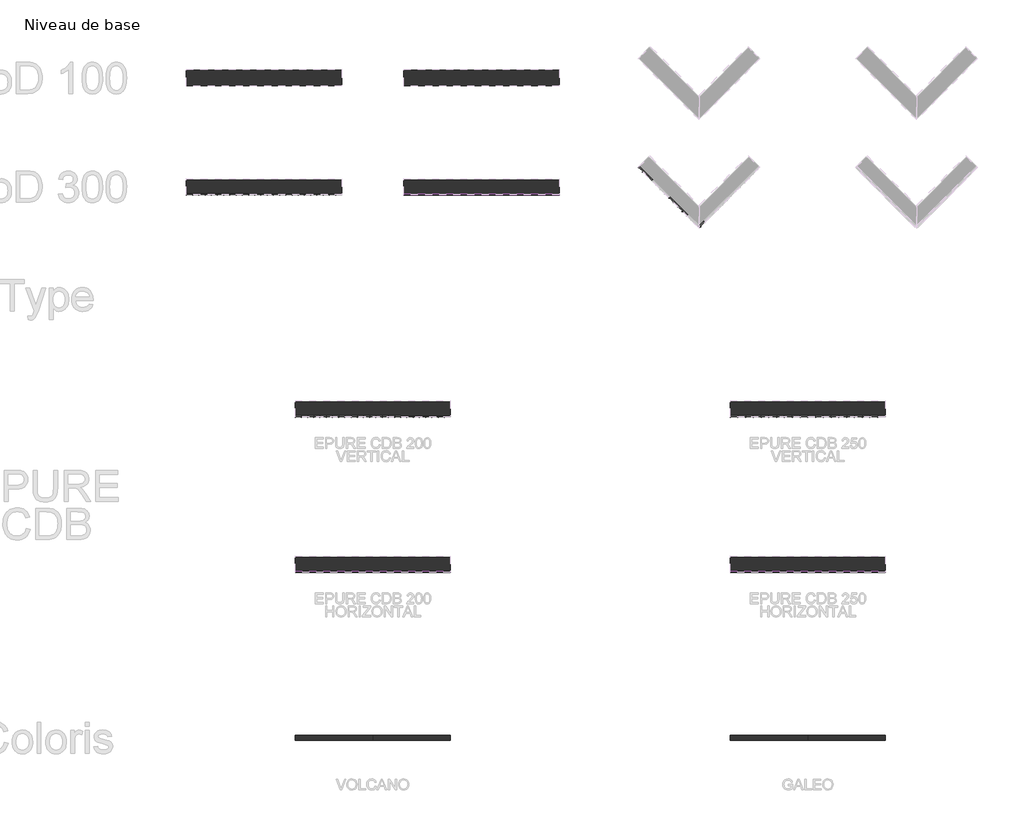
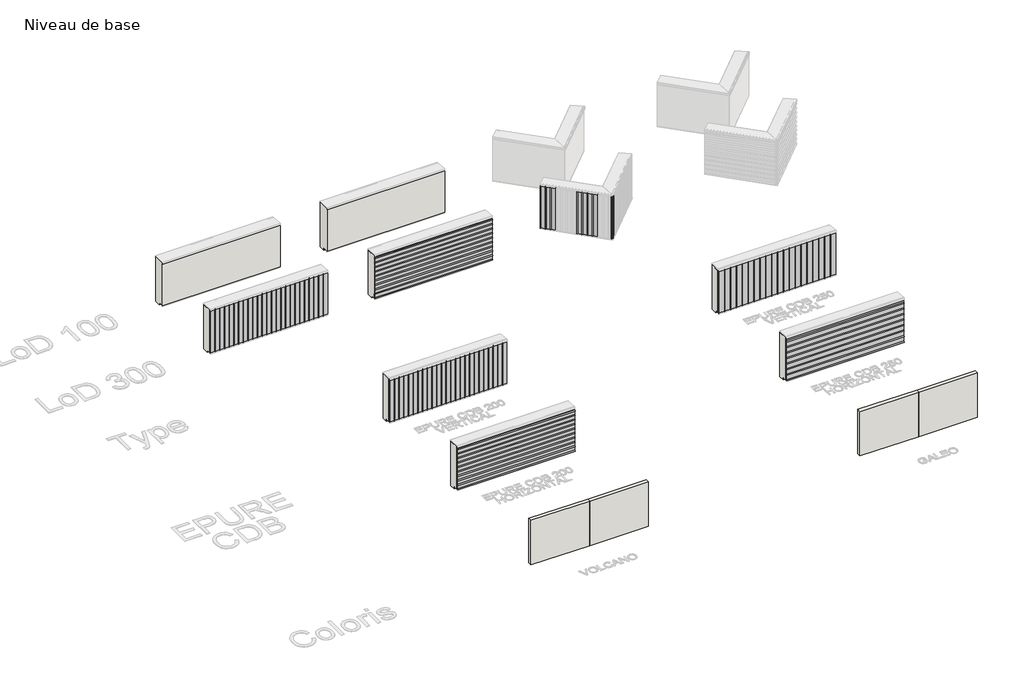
# One storey, part 1 of 13: 106 plates, 12 walls, 1 member.
"""IFC4 building model written with IfcOpenShell, lengths in millimetres."""

from ifc_helpers import new_model, si_unit, frame, origin, origin_with_axes, place, context, project, spatial, polyline, outline, extrude, faceted_brep, transform, mapped, element, save
from components import member_5640643a, plate_d045a554, plate_d9d45059, plate_a9dbc21c, plate_cea70d1d, plate_c0eb13c4, plate_fd93602a, plate_63a46ef3, plate_f28f5a23

model = new_model("IFC4")

# Units and contexts
model_context = context("Model", 3, world=origin())
ifc_project = project(units=[si_unit("LENGTHUNIT", "METRE", prefix="MILLI")], contexts=[model_context])

# Site, building, storey
site = spatial("IfcSite", under=ifc_project)
building = spatial("IfcBuilding", under=site)
storey = spatial("IfcBuildingStorey", under=building, Name="Niveau de base", Elevation=0.0)

# Member
placement = place(None, origin())
member_shape = member_5640643a(model_context)
element("IfcMember", 1, ObjectType="Meneau d'angle en L : ATELIERS 3S_Angle sortant", at=placement, inside=storey, context=model_context, shape_type="MappedRepresentation", body=[
    mapped(member_shape, transform((-10442.9704237, 40009.4162142, 100.0), x_axis=(0.7071067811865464, -0.7071067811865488, 0.0), y_axis=(-0.7071067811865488, -0.7071067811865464, 0.0), z_axis=(0.0, 0.0, -1.0))),
])

# Plates
plate_shape = plate_d045a554(model_context)
element("IfcPlate", 2, ObjectType="ATELIERS 3S_EPURE CDB 200_HORIZONTAL : AZURO", at=placement, inside=storey, context=model_context, shape_type="MappedRepresentation", body=[
    mapped(plate_shape, transform((-17442.9704237, 41055.7785953, 100.0), x_axis=(1.0, 0.0, 0.0), y_axis=(0.0, 1.0, 0.0), z_axis=(0.0, 0.0, 1.0))),
])
element("IfcPlate", 3, ObjectType="ATELIERS 3S_EPURE CDB 200_HORIZONTAL : AZURO", at=placement, inside=storey, context=model_context, shape_type="MappedRepresentation", body=[
    mapped(plate_shape, transform((-20942.9704237, 28905.7785953, 100.0), x_axis=(1.0, 0.0, 0.0), y_axis=(0.0, 1.0, 0.0), z_axis=(0.0, 0.0, 1.0))),
])
element("IfcPlate", 4, ObjectType="ATELIERS 3S_EPURE CDB 200_HORIZONTAL : AZURO", at=placement, inside=storey, context=model_context, shape_type="MappedRepresentation", body=[
    mapped(plate_shape, transform((-20942.9704237, 28905.7785953, 300.0), x_axis=(1.0, 0.0, 0.0), y_axis=(0.0, 1.0, 0.0), z_axis=(0.0, 0.0, 1.0))),
])
element("IfcPlate", 5, ObjectType="ATELIERS 3S_EPURE CDB 200_HORIZONTAL : AZURO", at=placement, inside=storey, context=model_context, shape_type="MappedRepresentation", body=[
    mapped(plate_shape, transform((-20942.9704237, 28905.7785953, 500.0), x_axis=(1.0, 0.0, 0.0), y_axis=(0.0, 1.0, 0.0), z_axis=(0.0, 0.0, 1.0))),
])
element("IfcPlate", 6, ObjectType="ATELIERS 3S_EPURE CDB 200_HORIZONTAL : AZURO", at=placement, inside=storey, context=model_context, shape_type="MappedRepresentation", body=[
    mapped(plate_shape, transform((-17442.9704237, 41055.7785953, 300.0), x_axis=(1.0, 0.0, 0.0), y_axis=(0.0, 1.0, 0.0), z_axis=(0.0, 0.0, 1.0))),
])
element("IfcPlate", 7, ObjectType="ATELIERS 3S_EPURE CDB 200_HORIZONTAL : AZURO", at=placement, inside=storey, context=model_context, shape_type="MappedRepresentation", body=[
    mapped(plate_shape, transform((-17442.9704237, 41055.7785953, 500.0), x_axis=(1.0, 0.0, 0.0), y_axis=(0.0, 1.0, 0.0), z_axis=(0.0, 0.0, 1.0))),
])
element("IfcPlate", 8, ObjectType="ATELIERS 3S_EPURE CDB 200_HORIZONTAL : AZURO", at=placement, inside=storey, context=model_context, shape_type="MappedRepresentation", body=[
    mapped(plate_shape, transform((-17442.9704237, 41055.7785953, 700.0), x_axis=(1.0, 0.0, 0.0), y_axis=(0.0, 1.0, 0.0), z_axis=(0.0, 0.0, 1.0))),
])
element("IfcPlate", 9, ObjectType="ATELIERS 3S_EPURE CDB 200_HORIZONTAL : AZURO", at=placement, inside=storey, context=model_context, shape_type="MappedRepresentation", body=[
    mapped(plate_shape, transform((-17442.9704237, 41055.7785953, 900.0), x_axis=(1.0, 0.0, 0.0), y_axis=(0.0, 1.0, 0.0), z_axis=(0.0, 0.0, 1.0))),
])
element("IfcPlate", 10, ObjectType="ATELIERS 3S_EPURE CDB 200_HORIZONTAL : AZURO", at=placement, inside=storey, context=model_context, shape_type="MappedRepresentation", body=[
    mapped(plate_shape, transform((-17442.9704237, 41055.7785953, 1100.0), x_axis=(1.0, 0.0, 0.0), y_axis=(0.0, 1.0, 0.0), z_axis=(0.0, 0.0, 1.0))),
])
element("IfcPlate", 11, ObjectType="ATELIERS 3S_EPURE CDB 200_HORIZONTAL : AZURO", at=placement, inside=storey, context=model_context, shape_type="MappedRepresentation", body=[
    mapped(plate_shape, transform((-17442.9704237, 41055.7785953, 1300.0), x_axis=(1.0, 0.0, 0.0), y_axis=(0.0, 1.0, 0.0), z_axis=(0.0, 0.0, 1.0))),
])
element("IfcPlate", 12, ObjectType="ATELIERS 3S_EPURE CDB 200_HORIZONTAL : AZURO", at=placement, inside=storey, context=model_context, shape_type="MappedRepresentation", body=[
    mapped(plate_shape, transform((-17442.9704237, 41055.7785953, 1500.0), x_axis=(1.0, 0.0, 0.0), y_axis=(0.0, 1.0, 0.0), z_axis=(0.0, 0.0, 1.0))),
])
element("IfcPlate", 13, ObjectType="ATELIERS 3S_EPURE CDB 200_HORIZONTAL : AZURO", at=placement, inside=storey, context=model_context, shape_type="MappedRepresentation", body=[
    mapped(plate_shape, transform((-17442.9704237, 41055.7785953, 1700.0), x_axis=(1.0, 0.0, 0.0), y_axis=(0.0, 1.0, 0.0), z_axis=(0.0, 0.0, 1.0))),
])
element("IfcPlate", 14, ObjectType="ATELIERS 3S_EPURE CDB 200_HORIZONTAL : AZURO", at=placement, inside=storey, context=model_context, shape_type="MappedRepresentation", body=[
    mapped(plate_shape, transform((-20942.9704237, 28905.7785953, 700.0), x_axis=(1.0, 0.0, 0.0), y_axis=(0.0, 1.0, 0.0), z_axis=(0.0, 0.0, 1.0))),
])
element("IfcPlate", 15, ObjectType="ATELIERS 3S_EPURE CDB 200_HORIZONTAL : AZURO", at=placement, inside=storey, context=model_context, shape_type="MappedRepresentation", body=[
    mapped(plate_shape, transform((-20942.9704237, 28905.7785953, 900.0), x_axis=(1.0, 0.0, 0.0), y_axis=(0.0, 1.0, 0.0), z_axis=(0.0, 0.0, 1.0))),
])
element("IfcPlate", 16, ObjectType="ATELIERS 3S_EPURE CDB 200_HORIZONTAL : AZURO", at=placement, inside=storey, context=model_context, shape_type="MappedRepresentation", body=[
    mapped(plate_shape, transform((-20942.9704237, 28905.7785953, 1100.0), x_axis=(1.0, 0.0, 0.0), y_axis=(0.0, 1.0, 0.0), z_axis=(0.0, 0.0, 1.0))),
])
element("IfcPlate", 17, ObjectType="ATELIERS 3S_EPURE CDB 200_HORIZONTAL : AZURO", at=placement, inside=storey, context=model_context, shape_type="MappedRepresentation", body=[
    mapped(plate_shape, transform((-20942.9704237, 28905.7785953, 1300.0), x_axis=(1.0, 0.0, 0.0), y_axis=(0.0, 1.0, 0.0), z_axis=(0.0, 0.0, 1.0))),
])
element("IfcPlate", 18, ObjectType="ATELIERS 3S_EPURE CDB 200_HORIZONTAL : AZURO", at=placement, inside=storey, context=model_context, shape_type="MappedRepresentation", body=[
    mapped(plate_shape, transform((-20942.9704237, 28905.7785953, 1500.0), x_axis=(1.0, 0.0, 0.0), y_axis=(0.0, 1.0, 0.0), z_axis=(0.0, 0.0, 1.0))),
])
element("IfcPlate", 19, ObjectType="ATELIERS 3S_EPURE CDB 200_HORIZONTAL : AZURO", at=placement, inside=storey, context=model_context, shape_type="MappedRepresentation", body=[
    mapped(plate_shape, transform((-20942.9704237, 28905.7785953, 1700.0), x_axis=(1.0, 0.0, 0.0), y_axis=(0.0, 1.0, 0.0), z_axis=(0.0, 0.0, 1.0))),
])
plate_2_shape = plate_d9d45059(model_context)
element("IfcPlate", 20, ObjectType="ATELIERS 3S_EPURE CDB 200_HORIZONTAL : AZURO", at=placement, inside=storey, context=model_context, shape_type="MappedRepresentation", body=[
    mapped(plate_2_shape, transform((-17442.9704237, 41055.7785953, 1900.0), x_axis=(1.0, 0.0, 0.0), y_axis=(0.0, 1.0, 0.0), z_axis=(0.0, 0.0, 1.0))),
])
element("IfcPlate", 21, ObjectType="ATELIERS 3S_EPURE CDB 200_HORIZONTAL : AZURO", at=placement, inside=storey, context=model_context, shape_type="MappedRepresentation", body=[
    mapped(plate_2_shape, transform((-20942.9704237, 28905.7785953, 1900.0), x_axis=(1.0, 0.0, 0.0), y_axis=(0.0, 1.0, 0.0), z_axis=(0.0, 0.0, 1.0))),
])
plate_3_shape = plate_a9dbc21c(model_context)
element("IfcPlate", 22, ObjectType="ATELIERS 3S_EPURE CDB 200_VERTICAL : AZURO", at=placement, inside=storey, context=model_context, shape_type="MappedRepresentation", body=[
    mapped(plate_3_shape, transform((-26842.9704236, 41055.7785953, 100.0), x_axis=(1.0, 0.0, 0.0), y_axis=(0.0, 1.0, 0.0), z_axis=(0.0, 0.0, 1.0))),
])
element("IfcPlate", 23, ObjectType="ATELIERS 3S_EPURE CDB 200_VERTICAL : AZURO", at=placement, inside=storey, context=model_context, shape_type="MappedRepresentation", body=[
    mapped(plate_3_shape, transform((-12292.7617632, 41859.2075537, 100.0), x_axis=(0.7071067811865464, -0.7071067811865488, 0.0), y_axis=(0.7071067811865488, 0.7071067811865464, 0.0), z_axis=(0.0, 0.0, 1.0))),
])
element("IfcPlate", 24, ObjectType="ATELIERS 3S_EPURE CDB 200_VERTICAL : AZURO", at=placement, inside=storey, context=model_context, shape_type="MappedRepresentation", body=[
    mapped(plate_3_shape, transform((-10363.7744641, 40088.6121738, 100.0), x_axis=(0.7071067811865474, 0.7071067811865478, 0.0), y_axis=(-0.7071067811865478, 0.7071067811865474, 0.0), z_axis=(0.0, 0.0, 1.0))),
])
element("IfcPlate", 25, ObjectType="ATELIERS 3S_EPURE CDB 200_VERTICAL : AZURO", at=placement, inside=storey, context=model_context, shape_type="MappedRepresentation", body=[
    mapped(plate_3_shape, transform((-23342.9704236, 33905.7785953, 100.0), x_axis=(1.0, 0.0, 0.0), y_axis=(0.0, 1.0, 0.0), z_axis=(0.0, 0.0, 1.0))),
])
element("IfcPlate", 26, ObjectType="ATELIERS 3S_EPURE CDB 200_VERTICAL : AZURO", at=placement, inside=storey, context=model_context, shape_type="MappedRepresentation", body=[
    mapped(plate_3_shape, transform((-26642.9704234, 41055.7785953, 100.0), x_axis=(1.0, 0.0, 0.0), y_axis=(0.0, 1.0, 0.0), z_axis=(0.0, 0.0, 1.0))),
])
element("IfcPlate", 27, ObjectType="ATELIERS 3S_EPURE CDB 200_VERTICAL : AZURO", at=placement, inside=storey, context=model_context, shape_type="MappedRepresentation", body=[
    mapped(plate_3_shape, transform((-26442.9704234, 41055.7785953, 100.0), x_axis=(1.0, 0.0, 0.0), y_axis=(0.0, 1.0, 0.0), z_axis=(0.0, 0.0, 1.0))),
])
element("IfcPlate", 28, ObjectType="ATELIERS 3S_EPURE CDB 200_VERTICAL : AZURO", at=placement, inside=storey, context=model_context, shape_type="MappedRepresentation", body=[
    mapped(plate_3_shape, transform((-26242.9704234, 41055.7785953, 100.0), x_axis=(1.0, 0.0, 0.0), y_axis=(0.0, 1.0, 0.0), z_axis=(0.0, 0.0, 1.0))),
])
element("IfcPlate", 29, ObjectType="ATELIERS 3S_EPURE CDB 200_VERTICAL : AZURO", at=placement, inside=storey, context=model_context, shape_type="MappedRepresentation", body=[
    mapped(plate_3_shape, transform((-26042.9704234, 41055.7785953, 100.0), x_axis=(1.0, 0.0, 0.0), y_axis=(0.0, 1.0, 0.0), z_axis=(0.0, 0.0, 1.0))),
])
element("IfcPlate", 30, ObjectType="ATELIERS 3S_EPURE CDB 200_VERTICAL : AZURO", at=placement, inside=storey, context=model_context, shape_type="MappedRepresentation", body=[
    mapped(plate_3_shape, transform((-25842.9704234, 41055.7785953, 100.0), x_axis=(1.0, 0.0, 0.0), y_axis=(0.0, 1.0, 0.0), z_axis=(0.0, 0.0, 1.0))),
])
element("IfcPlate", 31, ObjectType="ATELIERS 3S_EPURE CDB 200_VERTICAL : AZURO", at=placement, inside=storey, context=model_context, shape_type="MappedRepresentation", body=[
    mapped(plate_3_shape, transform((-25642.9704234, 41055.7785953, 100.0), x_axis=(1.0, 0.0, 0.0), y_axis=(0.0, 1.0, 0.0), z_axis=(0.0, 0.0, 1.0))),
])
element("IfcPlate", 32, ObjectType="ATELIERS 3S_EPURE CDB 200_VERTICAL : AZURO", at=placement, inside=storey, context=model_context, shape_type="MappedRepresentation", body=[
    mapped(plate_3_shape, transform((-25442.9704234, 41055.7785953, 100.0), x_axis=(1.0, 0.0, 0.0), y_axis=(0.0, 1.0, 0.0), z_axis=(0.0, 0.0, 1.0))),
])
element("IfcPlate", 33, ObjectType="ATELIERS 3S_EPURE CDB 200_VERTICAL : AZURO", at=placement, inside=storey, context=model_context, shape_type="MappedRepresentation", body=[
    mapped(plate_3_shape, transform((-25242.9704234, 41055.7785953, 100.0), x_axis=(1.0, 0.0, 0.0), y_axis=(0.0, 1.0, 0.0), z_axis=(0.0, 0.0, 1.0))),
])
element("IfcPlate", 34, ObjectType="ATELIERS 3S_EPURE CDB 200_VERTICAL : AZURO", at=placement, inside=storey, context=model_context, shape_type="MappedRepresentation", body=[
    mapped(plate_3_shape, transform((-25042.9704234, 41055.7785953, 100.0), x_axis=(1.0, 0.0, 0.0), y_axis=(0.0, 1.0, 0.0), z_axis=(0.0, 0.0, 1.0))),
])
element("IfcPlate", 35, ObjectType="ATELIERS 3S_EPURE CDB 200_VERTICAL : AZURO", at=placement, inside=storey, context=model_context, shape_type="MappedRepresentation", body=[
    mapped(plate_3_shape, transform((-24842.9704234, 41055.7785953, 100.0), x_axis=(1.0, 0.0, 0.0), y_axis=(0.0, 1.0, 0.0), z_axis=(0.0, 0.0, 1.0))),
])
element("IfcPlate", 36, ObjectType="ATELIERS 3S_EPURE CDB 200_VERTICAL : AZURO", at=placement, inside=storey, context=model_context, shape_type="MappedRepresentation", body=[
    mapped(plate_3_shape, transform((-24642.9704234, 41055.7785953, 100.0), x_axis=(1.0, 0.0, 0.0), y_axis=(0.0, 1.0, 0.0), z_axis=(0.0, 0.0, 1.0))),
])
element("IfcPlate", 37, ObjectType="ATELIERS 3S_EPURE CDB 200_VERTICAL : AZURO", at=placement, inside=storey, context=model_context, shape_type="MappedRepresentation", body=[
    mapped(plate_3_shape, transform((-24442.9704234, 41055.7785953, 100.0), x_axis=(1.0, 0.0, 0.0), y_axis=(0.0, 1.0, 0.0), z_axis=(0.0, 0.0, 1.0))),
])
element("IfcPlate", 38, ObjectType="ATELIERS 3S_EPURE CDB 200_VERTICAL : AZURO", at=placement, inside=storey, context=model_context, shape_type="MappedRepresentation", body=[
    mapped(plate_3_shape, transform((-24242.9704234, 41055.7785953, 100.0), x_axis=(1.0, 0.0, 0.0), y_axis=(0.0, 1.0, 0.0), z_axis=(0.0, 0.0, 1.0))),
])
element("IfcPlate", 39, ObjectType="ATELIERS 3S_EPURE CDB 200_VERTICAL : AZURO", at=placement, inside=storey, context=model_context, shape_type="MappedRepresentation", body=[
    mapped(plate_3_shape, transform((-24042.9704234, 41055.7785953, 100.0), x_axis=(1.0, 0.0, 0.0), y_axis=(0.0, 1.0, 0.0), z_axis=(0.0, 0.0, 1.0))),
])
element("IfcPlate", 40, ObjectType="ATELIERS 3S_EPURE CDB 200_VERTICAL : AZURO", at=placement, inside=storey, context=model_context, shape_type="MappedRepresentation", body=[
    mapped(plate_3_shape, transform((-23842.9704234, 41055.7785953, 100.0), x_axis=(1.0, 0.0, 0.0), y_axis=(0.0, 1.0, 0.0), z_axis=(0.0, 0.0, 1.0))),
])
element("IfcPlate", 41, ObjectType="ATELIERS 3S_EPURE CDB 200_VERTICAL : AZURO", at=placement, inside=storey, context=model_context, shape_type="MappedRepresentation", body=[
    mapped(plate_3_shape, transform((-23642.9704234, 41055.7785953, 100.0), x_axis=(1.0, 0.0, 0.0), y_axis=(0.0, 1.0, 0.0), z_axis=(0.0, 0.0, 1.0))),
])
element("IfcPlate", 42, ObjectType="ATELIERS 3S_EPURE CDB 200_VERTICAL : AZURO", at=placement, inside=storey, context=model_context, shape_type="MappedRepresentation", body=[
    mapped(plate_3_shape, transform((-23442.9704234, 41055.7785953, 100.0), x_axis=(1.0, 0.0, 0.0), y_axis=(0.0, 1.0, 0.0), z_axis=(0.0, 0.0, 1.0))),
])
element("IfcPlate", 43, ObjectType="ATELIERS 3S_EPURE CDB 200_VERTICAL : AZURO", at=placement, inside=storey, context=model_context, shape_type="MappedRepresentation", body=[
    mapped(plate_3_shape, transform((-23242.9704234, 41055.7785953, 100.0), x_axis=(1.0, 0.0, 0.0), y_axis=(0.0, 1.0, 0.0), z_axis=(0.0, 0.0, 1.0))),
])
element("IfcPlate", 44, ObjectType="ATELIERS 3S_EPURE CDB 200_VERTICAL : AZURO", at=placement, inside=storey, context=model_context, shape_type="MappedRepresentation", body=[
    mapped(plate_3_shape, transform((-23042.9704234, 41055.7785953, 100.0), x_axis=(1.0, 0.0, 0.0), y_axis=(0.0, 1.0, 0.0), z_axis=(0.0, 0.0, 1.0))),
])
element("IfcPlate", 45, ObjectType="ATELIERS 3S_EPURE CDB 200_VERTICAL : AZURO", at=placement, inside=storey, context=model_context, shape_type="MappedRepresentation", body=[
    mapped(plate_3_shape, transform((-22842.9704234, 41055.7785953, 100.0), x_axis=(1.0, 0.0, 0.0), y_axis=(0.0, 1.0, 0.0), z_axis=(0.0, 0.0, 1.0))),
])
element("IfcPlate", 46, ObjectType="ATELIERS 3S_EPURE CDB 200_VERTICAL : AZURO", at=placement, inside=storey, context=model_context, shape_type="MappedRepresentation", body=[
    mapped(plate_3_shape, transform((-22642.9704234, 41055.7785953, 100.0), x_axis=(1.0, 0.0, 0.0), y_axis=(0.0, 1.0, 0.0), z_axis=(0.0, 0.0, 1.0))),
])
element("IfcPlate", 47, ObjectType="ATELIERS 3S_EPURE CDB 200_VERTICAL : AZURO", at=placement, inside=storey, context=model_context, shape_type="MappedRepresentation", body=[
    mapped(plate_3_shape, transform((-22442.9704234, 41055.7785953, 100.0), x_axis=(1.0, 0.0, 0.0), y_axis=(0.0, 1.0, 0.0), z_axis=(0.0, 0.0, 1.0))),
])
element("IfcPlate", 48, ObjectType="ATELIERS 3S_EPURE CDB 200_VERTICAL : AZURO", at=placement, inside=storey, context=model_context, shape_type="MappedRepresentation", body=[
    mapped(plate_3_shape, transform((-22242.9704234, 41055.7785953, 100.0), x_axis=(1.0, 0.0, 0.0), y_axis=(0.0, 1.0, 0.0), z_axis=(0.0, 0.0, 1.0))),
])
element("IfcPlate", 49, ObjectType="ATELIERS 3S_EPURE CDB 200_VERTICAL : AZURO", at=placement, inside=storey, context=model_context, shape_type="MappedRepresentation", body=[
    mapped(plate_3_shape, transform((-12151.3404069, 41717.7861973, 100.0), x_axis=(0.7071067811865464, -0.7071067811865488, 0.0), y_axis=(0.7071067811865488, 0.7071067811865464, 0.0), z_axis=(0.0, 0.0, 1.0))),
])
element("IfcPlate", 50, ObjectType="ATELIERS 3S_EPURE CDB 200_VERTICAL : AZURO", at=placement, inside=storey, context=model_context, shape_type="MappedRepresentation", body=[
    mapped(plate_3_shape, transform((-12009.9190506, 41576.3648411, 100.0), x_axis=(0.7071067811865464, -0.7071067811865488, 0.0), y_axis=(0.7071067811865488, 0.7071067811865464, 0.0), z_axis=(0.0, 0.0, 1.0))),
])
element("IfcPlate", 51, ObjectType="ATELIERS 3S_EPURE CDB 200_VERTICAL : AZURO", at=placement, inside=storey, context=model_context, shape_type="MappedRepresentation", body=[
    mapped(plate_3_shape, transform((-11302.8122694, 40869.2580599, 100.0), x_axis=(0.7071067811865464, -0.7071067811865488, 0.0), y_axis=(0.7071067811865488, 0.7071067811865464, 0.0), z_axis=(0.0, 0.0, 1.0))),
])
element("IfcPlate", 52, ObjectType="ATELIERS 3S_EPURE CDB 200_VERTICAL : AZURO", at=placement, inside=storey, context=model_context, shape_type="MappedRepresentation", body=[
    mapped(plate_3_shape, transform((-11161.3909132, 40727.8367037, 100.0), x_axis=(0.7071067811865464, -0.7071067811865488, 0.0), y_axis=(0.7071067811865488, 0.7071067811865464, 0.0), z_axis=(0.0, 0.0, 1.0))),
])
element("IfcPlate", 53, ObjectType="ATELIERS 3S_EPURE CDB 200_VERTICAL : AZURO", at=placement, inside=storey, context=model_context, shape_type="MappedRepresentation", body=[
    mapped(plate_3_shape, transform((-11019.969557, 40586.4153474, 100.0), x_axis=(0.7071067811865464, -0.7071067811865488, 0.0), y_axis=(0.7071067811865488, 0.7071067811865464, 0.0), z_axis=(0.0, 0.0, 1.0))),
])
element("IfcPlate", 54, ObjectType="ATELIERS 3S_EPURE CDB 200_VERTICAL : AZURO", at=placement, inside=storey, context=model_context, shape_type="MappedRepresentation", body=[
    mapped(plate_3_shape, transform((-10878.5482007, 40444.9939912, 100.0), x_axis=(0.7071067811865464, -0.7071067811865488, 0.0), y_axis=(0.7071067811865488, 0.7071067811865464, 0.0), z_axis=(0.0, 0.0, 1.0))),
])
element("IfcPlate", 55, ObjectType="ATELIERS 3S_EPURE CDB 200_VERTICAL : AZURO", at=placement, inside=storey, context=model_context, shape_type="MappedRepresentation", body=[
    mapped(plate_3_shape, transform((-23142.9704234, 33905.7785953, 100.0), x_axis=(1.0, 0.0, 0.0), y_axis=(0.0, 1.0, 0.0), z_axis=(0.0, 0.0, 1.0))),
])
element("IfcPlate", 56, ObjectType="ATELIERS 3S_EPURE CDB 200_VERTICAL : AZURO", at=placement, inside=storey, context=model_context, shape_type="MappedRepresentation", body=[
    mapped(plate_3_shape, transform((-22942.9704234, 33905.7785953, 100.0), x_axis=(1.0, 0.0, 0.0), y_axis=(0.0, 1.0, 0.0), z_axis=(0.0, 0.0, 1.0))),
])
element("IfcPlate", 57, ObjectType="ATELIERS 3S_EPURE CDB 200_VERTICAL : AZURO", at=placement, inside=storey, context=model_context, shape_type="MappedRepresentation", body=[
    mapped(plate_3_shape, transform((-22742.9704234, 33905.7785953, 100.0), x_axis=(1.0, 0.0, 0.0), y_axis=(0.0, 1.0, 0.0), z_axis=(0.0, 0.0, 1.0))),
])
element("IfcPlate", 58, ObjectType="ATELIERS 3S_EPURE CDB 200_VERTICAL : AZURO", at=placement, inside=storey, context=model_context, shape_type="MappedRepresentation", body=[
    mapped(plate_3_shape, transform((-22542.9704234, 33905.7785953, 100.0), x_axis=(1.0, 0.0, 0.0), y_axis=(0.0, 1.0, 0.0), z_axis=(0.0, 0.0, 1.0))),
])
element("IfcPlate", 59, ObjectType="ATELIERS 3S_EPURE CDB 200_VERTICAL : AZURO", at=placement, inside=storey, context=model_context, shape_type="MappedRepresentation", body=[
    mapped(plate_3_shape, transform((-22342.9704234, 33905.7785953, 100.0), x_axis=(1.0, 0.0, 0.0), y_axis=(0.0, 1.0, 0.0), z_axis=(0.0, 0.0, 1.0))),
])
element("IfcPlate", 60, ObjectType="ATELIERS 3S_EPURE CDB 200_VERTICAL : AZURO", at=placement, inside=storey, context=model_context, shape_type="MappedRepresentation", body=[
    mapped(plate_3_shape, transform((-22142.9704234, 33905.7785953, 100.0), x_axis=(1.0, 0.0, 0.0), y_axis=(0.0, 1.0, 0.0), z_axis=(0.0, 0.0, 1.0))),
])
element("IfcPlate", 61, ObjectType="ATELIERS 3S_EPURE CDB 200_VERTICAL : AZURO", at=placement, inside=storey, context=model_context, shape_type="MappedRepresentation", body=[
    mapped(plate_3_shape, transform((-21942.9704234, 33905.7785953, 100.0), x_axis=(1.0, 0.0, 0.0), y_axis=(0.0, 1.0, 0.0), z_axis=(0.0, 0.0, 1.0))),
])
element("IfcPlate", 62, ObjectType="ATELIERS 3S_EPURE CDB 200_VERTICAL : AZURO", at=placement, inside=storey, context=model_context, shape_type="MappedRepresentation", body=[
    mapped(plate_3_shape, transform((-21742.9704234, 33905.7785953, 100.0), x_axis=(1.0, 0.0, 0.0), y_axis=(0.0, 1.0, 0.0), z_axis=(0.0, 0.0, 1.0))),
])
element("IfcPlate", 63, ObjectType="ATELIERS 3S_EPURE CDB 200_VERTICAL : AZURO", at=placement, inside=storey, context=model_context, shape_type="MappedRepresentation", body=[
    mapped(plate_3_shape, transform((-21542.9704234, 33905.7785953, 100.0), x_axis=(1.0, 0.0, 0.0), y_axis=(0.0, 1.0, 0.0), z_axis=(0.0, 0.0, 1.0))),
])
element("IfcPlate", 64, ObjectType="ATELIERS 3S_EPURE CDB 200_VERTICAL : AZURO", at=placement, inside=storey, context=model_context, shape_type="MappedRepresentation", body=[
    mapped(plate_3_shape, transform((-21342.9704234, 33905.7785953, 100.0), x_axis=(1.0, 0.0, 0.0), y_axis=(0.0, 1.0, 0.0), z_axis=(0.0, 0.0, 1.0))),
])
element("IfcPlate", 65, ObjectType="ATELIERS 3S_EPURE CDB 200_VERTICAL : AZURO", at=placement, inside=storey, context=model_context, shape_type="MappedRepresentation", body=[
    mapped(plate_3_shape, transform((-21142.9704234, 33905.7785953, 100.0), x_axis=(1.0, 0.0, 0.0), y_axis=(0.0, 1.0, 0.0), z_axis=(0.0, 0.0, 1.0))),
])
element("IfcPlate", 66, ObjectType="ATELIERS 3S_EPURE CDB 200_VERTICAL : AZURO", at=placement, inside=storey, context=model_context, shape_type="MappedRepresentation", body=[
    mapped(plate_3_shape, transform((-20942.9704234, 33905.7785953, 100.0), x_axis=(1.0, 0.0, 0.0), y_axis=(0.0, 1.0, 0.0), z_axis=(0.0, 0.0, 1.0))),
])
element("IfcPlate", 67, ObjectType="ATELIERS 3S_EPURE CDB 200_VERTICAL : AZURO", at=placement, inside=storey, context=model_context, shape_type="MappedRepresentation", body=[
    mapped(plate_3_shape, transform((-20742.9704234, 33905.7785953, 100.0), x_axis=(1.0, 0.0, 0.0), y_axis=(0.0, 1.0, 0.0), z_axis=(0.0, 0.0, 1.0))),
])
element("IfcPlate", 68, ObjectType="ATELIERS 3S_EPURE CDB 200_VERTICAL : AZURO", at=placement, inside=storey, context=model_context, shape_type="MappedRepresentation", body=[
    mapped(plate_3_shape, transform((-20542.9704234, 33905.7785953, 100.0), x_axis=(1.0, 0.0, 0.0), y_axis=(0.0, 1.0, 0.0), z_axis=(0.0, 0.0, 1.0))),
])
element("IfcPlate", 69, ObjectType="ATELIERS 3S_EPURE CDB 200_VERTICAL : AZURO", at=placement, inside=storey, context=model_context, shape_type="MappedRepresentation", body=[
    mapped(plate_3_shape, transform((-20342.9704234, 33905.7785953, 100.0), x_axis=(1.0, 0.0, 0.0), y_axis=(0.0, 1.0, 0.0), z_axis=(0.0, 0.0, 1.0))),
])
element("IfcPlate", 70, ObjectType="ATELIERS 3S_EPURE CDB 200_VERTICAL : AZURO", at=placement, inside=storey, context=model_context, shape_type="MappedRepresentation", body=[
    mapped(plate_3_shape, transform((-20142.9704234, 33905.7785953, 100.0), x_axis=(1.0, 0.0, 0.0), y_axis=(0.0, 1.0, 0.0), z_axis=(0.0, 0.0, 1.0))),
])
element("IfcPlate", 71, ObjectType="ATELIERS 3S_EPURE CDB 200_VERTICAL : AZURO", at=placement, inside=storey, context=model_context, shape_type="MappedRepresentation", body=[
    mapped(plate_3_shape, transform((-19942.9704234, 33905.7785953, 100.0), x_axis=(1.0, 0.0, 0.0), y_axis=(0.0, 1.0, 0.0), z_axis=(0.0, 0.0, 1.0))),
])
element("IfcPlate", 72, ObjectType="ATELIERS 3S_EPURE CDB 200_VERTICAL : AZURO", at=placement, inside=storey, context=model_context, shape_type="MappedRepresentation", body=[
    mapped(plate_3_shape, transform((-19742.9704234, 33905.7785953, 100.0), x_axis=(1.0, 0.0, 0.0), y_axis=(0.0, 1.0, 0.0), z_axis=(0.0, 0.0, 1.0))),
])
element("IfcPlate", 73, ObjectType="ATELIERS 3S_EPURE CDB 200_VERTICAL : AZURO", at=placement, inside=storey, context=model_context, shape_type="MappedRepresentation", body=[
    mapped(plate_3_shape, transform((-19542.9704234, 33905.7785953, 100.0), x_axis=(1.0, 0.0, 0.0), y_axis=(0.0, 1.0, 0.0), z_axis=(0.0, 0.0, 1.0))),
])
element("IfcPlate", 74, ObjectType="ATELIERS 3S_EPURE CDB 200_VERTICAL : AZURO", at=placement, inside=storey, context=model_context, shape_type="MappedRepresentation", body=[
    mapped(plate_3_shape, transform((-19342.9704234, 33905.7785953, 100.0), x_axis=(1.0, 0.0, 0.0), y_axis=(0.0, 1.0, 0.0), z_axis=(0.0, 0.0, 1.0))),
])
element("IfcPlate", 75, ObjectType="ATELIERS 3S_EPURE CDB 200_VERTICAL : AZURO", at=placement, inside=storey, context=model_context, shape_type="MappedRepresentation", body=[
    mapped(plate_3_shape, transform((-19142.9704234, 33905.7785953, 100.0), x_axis=(1.0, 0.0, 0.0), y_axis=(0.0, 1.0, 0.0), z_axis=(0.0, 0.0, 1.0))),
])
element("IfcPlate", 76, ObjectType="ATELIERS 3S_EPURE CDB 200_VERTICAL : AZURO", at=placement, inside=storey, context=model_context, shape_type="MappedRepresentation", body=[
    mapped(plate_3_shape, transform((-18942.9704234, 33905.7785953, 100.0), x_axis=(1.0, 0.0, 0.0), y_axis=(0.0, 1.0, 0.0), z_axis=(0.0, 0.0, 1.0))),
])
element("IfcPlate", 77, ObjectType="ATELIERS 3S_EPURE CDB 200_VERTICAL : AZURO", at=placement, inside=storey, context=model_context, shape_type="MappedRepresentation", body=[
    mapped(plate_3_shape, transform((-18742.9704234, 33905.7785953, 100.0), x_axis=(1.0, 0.0, 0.0), y_axis=(0.0, 1.0, 0.0), z_axis=(0.0, 0.0, 1.0))),
])
plate_4_shape = plate_cea70d1d(model_context)
element("IfcPlate", 78, ObjectType="ATELIERS 3S_EPURE CDB 200_VERTICAL : AZURO", at=placement, inside=storey, context=model_context, shape_type="MappedRepresentation", body=[
    mapped(plate_4_shape, transform((-22042.9704236, 41055.7785953, 100.0), x_axis=(1.0, 0.0, 0.0), y_axis=(0.0, 1.0, 0.0), z_axis=(0.0, 0.0, 1.0))),
])
element("IfcPlate", 79, ObjectType="ATELIERS 3S_EPURE CDB 200_VERTICAL : AZURO", at=placement, inside=storey, context=model_context, shape_type="MappedRepresentation", body=[
    mapped(plate_4_shape, transform((-18542.9704236, 33905.7785953, 100.0), x_axis=(1.0, 0.0, 0.0), y_axis=(0.0, 1.0, 0.0), z_axis=(0.0, 0.0, 1.0))),
])
plate_5_shape = plate_c0eb13c4(model_context)
element("IfcPlate", 80, ObjectType="ATELIERS 3S_EPURE CDB 250_HORIZONTAL : AZURO", at=placement, inside=storey, context=model_context, shape_type="MappedRepresentation", body=[
    mapped(plate_5_shape, transform((-6942.9704237, 28905.7785953, 100.0), x_axis=(1.0, 0.0, 0.0), y_axis=(0.0, 1.0, 0.0), z_axis=(0.0, 0.0, 1.0))),
])
element("IfcPlate", 81, ObjectType="ATELIERS 3S_EPURE CDB 250_HORIZONTAL : AZURO", at=placement, inside=storey, context=model_context, shape_type="MappedRepresentation", body=[
    mapped(plate_5_shape, transform((-6942.9704237, 28905.7785953, 350.0), x_axis=(1.0, 0.0, 0.0), y_axis=(0.0, 1.0, 0.0), z_axis=(0.0, 0.0, 1.0))),
])
element("IfcPlate", 82, ObjectType="ATELIERS 3S_EPURE CDB 250_HORIZONTAL : AZURO", at=placement, inside=storey, context=model_context, shape_type="MappedRepresentation", body=[
    mapped(plate_5_shape, transform((-6942.9704237, 28905.7785953, 600.0), x_axis=(1.0, 0.0, 0.0), y_axis=(0.0, 1.0, 0.0), z_axis=(0.0, 0.0, 1.0))),
])
element("IfcPlate", 83, ObjectType="ATELIERS 3S_EPURE CDB 250_HORIZONTAL : AZURO", at=placement, inside=storey, context=model_context, shape_type="MappedRepresentation", body=[
    mapped(plate_5_shape, transform((-6942.9704237, 28905.7785953, 850.0), x_axis=(1.0, 0.0, 0.0), y_axis=(0.0, 1.0, 0.0), z_axis=(0.0, 0.0, 1.0))),
])
element("IfcPlate", 84, ObjectType="ATELIERS 3S_EPURE CDB 250_HORIZONTAL : AZURO", at=placement, inside=storey, context=model_context, shape_type="MappedRepresentation", body=[
    mapped(plate_5_shape, transform((-6942.9704237, 28905.7785953, 1100.0), x_axis=(1.0, 0.0, 0.0), y_axis=(0.0, 1.0, 0.0), z_axis=(0.0, 0.0, 1.0))),
])
element("IfcPlate", 85, ObjectType="ATELIERS 3S_EPURE CDB 250_HORIZONTAL : AZURO", at=placement, inside=storey, context=model_context, shape_type="MappedRepresentation", body=[
    mapped(plate_5_shape, transform((-6942.9704237, 28905.7785953, 1350.0), x_axis=(1.0, 0.0, 0.0), y_axis=(0.0, 1.0, 0.0), z_axis=(0.0, 0.0, 1.0))),
])
element("IfcPlate", 86, ObjectType="ATELIERS 3S_EPURE CDB 250_HORIZONTAL : AZURO", at=placement, inside=storey, context=model_context, shape_type="MappedRepresentation", body=[
    mapped(plate_5_shape, transform((-6942.9704237, 28905.7785953, 1600.0), x_axis=(1.0, 0.0, 0.0), y_axis=(0.0, 1.0, 0.0), z_axis=(0.0, 0.0, 1.0))),
])
plate_6_shape = plate_fd93602a(model_context)
element("IfcPlate", 87, ObjectType="ATELIERS 3S_EPURE CDB 250_HORIZONTAL : AZURO", at=placement, inside=storey, context=model_context, shape_type="MappedRepresentation", body=[
    mapped(plate_6_shape, transform((-6942.9704237, 28905.7785953, 1850.0), x_axis=(1.0, 0.0, 0.0), y_axis=(0.0, 1.0, 0.0), z_axis=(0.0, 0.0, 1.0))),
])
plate_7_shape = plate_63a46ef3(model_context)
element("IfcPlate", 88, ObjectType="ATELIERS 3S_EPURE CDB 250_VERTICAL : AZURO", at=placement, inside=storey, context=model_context, shape_type="MappedRepresentation", body=[
    mapped(plate_7_shape, transform((-9317.9704236, 33905.7785953, 100.0), x_axis=(1.0, 0.0, 0.0), y_axis=(0.0, 1.0, 0.0), z_axis=(0.0, 0.0, 1.0))),
])
element("IfcPlate", 89, ObjectType="ATELIERS 3S_EPURE CDB 250_VERTICAL : AZURO", at=placement, inside=storey, context=model_context, shape_type="MappedRepresentation", body=[
    mapped(plate_7_shape, transform((-5817.9704234, 33905.7785953, 100.0), x_axis=(1.0, 0.0, 0.0), y_axis=(0.0, 1.0, 0.0), z_axis=(0.0, 0.0, 1.0))),
])
element("IfcPlate", 90, ObjectType="ATELIERS 3S_EPURE CDB 250_VERTICAL : AZURO", at=placement, inside=storey, context=model_context, shape_type="MappedRepresentation", body=[
    mapped(plate_7_shape, transform((-5567.9704234, 33905.7785953, 100.0), x_axis=(1.0, 0.0, 0.0), y_axis=(0.0, 1.0, 0.0), z_axis=(0.0, 0.0, 1.0))),
])
element("IfcPlate", 91, ObjectType="ATELIERS 3S_EPURE CDB 250_VERTICAL : AZURO", at=placement, inside=storey, context=model_context, shape_type="MappedRepresentation", body=[
    mapped(plate_7_shape, transform((-5317.9704234, 33905.7785953, 100.0), x_axis=(1.0, 0.0, 0.0), y_axis=(0.0, 1.0, 0.0), z_axis=(0.0, 0.0, 1.0))),
])
element("IfcPlate", 92, ObjectType="ATELIERS 3S_EPURE CDB 250_VERTICAL : AZURO", at=placement, inside=storey, context=model_context, shape_type="MappedRepresentation", body=[
    mapped(plate_7_shape, transform((-5067.9704234, 33905.7785953, 100.0), x_axis=(1.0, 0.0, 0.0), y_axis=(0.0, 1.0, 0.0), z_axis=(0.0, 0.0, 1.0))),
])
element("IfcPlate", 93, ObjectType="ATELIERS 3S_EPURE CDB 250_VERTICAL : AZURO", at=placement, inside=storey, context=model_context, shape_type="MappedRepresentation", body=[
    mapped(plate_7_shape, transform((-4817.9704234, 33905.7785953, 100.0), x_axis=(1.0, 0.0, 0.0), y_axis=(0.0, 1.0, 0.0), z_axis=(0.0, 0.0, 1.0))),
])
element("IfcPlate", 94, ObjectType="ATELIERS 3S_EPURE CDB 250_VERTICAL : AZURO", at=placement, inside=storey, context=model_context, shape_type="MappedRepresentation", body=[
    mapped(plate_7_shape, transform((-6067.9704234, 33905.7785953, 100.0), x_axis=(1.0, 0.0, 0.0), y_axis=(0.0, 1.0, 0.0), z_axis=(0.0, 0.0, 1.0))),
])
element("IfcPlate", 95, ObjectType="ATELIERS 3S_EPURE CDB 250_VERTICAL : AZURO", at=placement, inside=storey, context=model_context, shape_type="MappedRepresentation", body=[
    mapped(plate_7_shape, transform((-6317.9704234, 33905.7785953, 100.0), x_axis=(1.0, 0.0, 0.0), y_axis=(0.0, 1.0, 0.0), z_axis=(0.0, 0.0, 1.0))),
])
element("IfcPlate", 96, ObjectType="ATELIERS 3S_EPURE CDB 250_VERTICAL : AZURO", at=placement, inside=storey, context=model_context, shape_type="MappedRepresentation", body=[
    mapped(plate_7_shape, transform((-6567.9704234, 33905.7785953, 100.0), x_axis=(1.0, 0.0, 0.0), y_axis=(0.0, 1.0, 0.0), z_axis=(0.0, 0.0, 1.0))),
])
element("IfcPlate", 97, ObjectType="ATELIERS 3S_EPURE CDB 250_VERTICAL : AZURO", at=placement, inside=storey, context=model_context, shape_type="MappedRepresentation", body=[
    mapped(plate_7_shape, transform((-6817.9704234, 33905.7785953, 100.0), x_axis=(1.0, 0.0, 0.0), y_axis=(0.0, 1.0, 0.0), z_axis=(0.0, 0.0, 1.0))),
])
element("IfcPlate", 98, ObjectType="ATELIERS 3S_EPURE CDB 250_VERTICAL : AZURO", at=placement, inside=storey, context=model_context, shape_type="MappedRepresentation", body=[
    mapped(plate_7_shape, transform((-7067.9704234, 33905.7785953, 100.0), x_axis=(1.0, 0.0, 0.0), y_axis=(0.0, 1.0, 0.0), z_axis=(0.0, 0.0, 1.0))),
])
element("IfcPlate", 99, ObjectType="ATELIERS 3S_EPURE CDB 250_VERTICAL : AZURO", at=placement, inside=storey, context=model_context, shape_type="MappedRepresentation", body=[
    mapped(plate_7_shape, transform((-7317.9704234, 33905.7785953, 100.0), x_axis=(1.0, 0.0, 0.0), y_axis=(0.0, 1.0, 0.0), z_axis=(0.0, 0.0, 1.0))),
])
element("IfcPlate", 100, ObjectType="ATELIERS 3S_EPURE CDB 250_VERTICAL : AZURO", at=placement, inside=storey, context=model_context, shape_type="MappedRepresentation", body=[
    mapped(plate_7_shape, transform((-7567.9704234, 33905.7785953, 100.0), x_axis=(1.0, 0.0, 0.0), y_axis=(0.0, 1.0, 0.0), z_axis=(0.0, 0.0, 1.0))),
])
element("IfcPlate", 101, ObjectType="ATELIERS 3S_EPURE CDB 250_VERTICAL : AZURO", at=placement, inside=storey, context=model_context, shape_type="MappedRepresentation", body=[
    mapped(plate_7_shape, transform((-7817.9704234, 33905.7785953, 100.0), x_axis=(1.0, 0.0, 0.0), y_axis=(0.0, 1.0, 0.0), z_axis=(0.0, 0.0, 1.0))),
])
element("IfcPlate", 102, ObjectType="ATELIERS 3S_EPURE CDB 250_VERTICAL : AZURO", at=placement, inside=storey, context=model_context, shape_type="MappedRepresentation", body=[
    mapped(plate_7_shape, transform((-8067.9704234, 33905.7785953, 100.0), x_axis=(1.0, 0.0, 0.0), y_axis=(0.0, 1.0, 0.0), z_axis=(0.0, 0.0, 1.0))),
])
element("IfcPlate", 103, ObjectType="ATELIERS 3S_EPURE CDB 250_VERTICAL : AZURO", at=placement, inside=storey, context=model_context, shape_type="MappedRepresentation", body=[
    mapped(plate_7_shape, transform((-8317.9704234, 33905.7785953, 100.0), x_axis=(1.0, 0.0, 0.0), y_axis=(0.0, 1.0, 0.0), z_axis=(0.0, 0.0, 1.0))),
])
element("IfcPlate", 104, ObjectType="ATELIERS 3S_EPURE CDB 250_VERTICAL : AZURO", at=placement, inside=storey, context=model_context, shape_type="MappedRepresentation", body=[
    mapped(plate_7_shape, transform((-8567.9704234, 33905.7785953, 100.0), x_axis=(1.0, 0.0, 0.0), y_axis=(0.0, 1.0, 0.0), z_axis=(0.0, 0.0, 1.0))),
])
element("IfcPlate", 105, ObjectType="ATELIERS 3S_EPURE CDB 250_VERTICAL : AZURO", at=placement, inside=storey, context=model_context, shape_type="MappedRepresentation", body=[
    mapped(plate_7_shape, transform((-8817.9704234, 33905.7785953, 100.0), x_axis=(1.0, 0.0, 0.0), y_axis=(0.0, 1.0, 0.0), z_axis=(0.0, 0.0, 1.0))),
])
element("IfcPlate", 106, ObjectType="ATELIERS 3S_EPURE CDB 250_VERTICAL : AZURO", at=placement, inside=storey, context=model_context, shape_type="MappedRepresentation", body=[
    mapped(plate_7_shape, transform((-9067.9704234, 33905.7785953, 100.0), x_axis=(1.0, 0.0, 0.0), y_axis=(0.0, 1.0, 0.0), z_axis=(0.0, 0.0, 1.0))),
])
plate_8_shape = plate_f28f5a23(model_context)
element("IfcPlate", 107, ObjectType="ATELIERS 3S_EPURE CDB 250_VERTICAL : AZURO", at=placement, inside=storey, context=model_context, shape_type="MappedRepresentation", body=[
    mapped(plate_8_shape, transform((-4567.9704236, 33905.7785953, 100.0), x_axis=(1.0, 0.0, 0.0), y_axis=(0.0, 1.0, 0.0), z_axis=(0.0, 0.0, 1.0))),
])

# Walls
element("IfcWall", 108, ObjectType="ATELIERS 3S_EPURE CDB 200 VERTICAL_AZURO_LoD 100", at=placement, inside=storey, context=model_context, shape_type="Brep", body=[
    faceted_brep([(-21942.9704237, 44527.0285953, 100.0), (-21942.9704237, 44527.0285953, 2000.0), (-26942.9704237, 44527.0285953, 2000.0), (-26942.9704237, 44527.0285953, 100.0), (-21942.9704237, 45016.5285953, 0.0), (-26942.9704237, 45016.5285953, 0.0), (-26942.9704237, 45016.5285953, 2000.0), (-21942.9704237, 45016.5285953, 2000.0), (-26942.9704237, 44584.5285953, 100.0), (-21942.9704237, 44584.5285953, 100.0), (-26942.9704237, 44766.5285953, 100.0), (-21942.9704237, 44766.5285953, 100.0), (-21942.9704237, 44585.5285953, 100.0), (-26942.9704237, 44585.5285953, 100.0), (-21942.9704237, 44584.5285953, 130.0), (-21942.9704237, 44585.5285953, 130.0), (-21942.9704237, 44766.5285953, 0.0), (-21942.9704237, 44547.5285953, 2000.0), (-26942.9704237, 44547.5285953, 2000.0), (-26942.9704237, 44766.5285953, 0.0), (-26942.9704237, 44585.5285953, 130.0), (-26942.9704237, 44584.5285953, 130.0)], [[[0, 1, 2, 3]], [[4, 5, 6, 7]], [[0, 3, 8, 9]], [[10, 11, 12, 13]], [[1, 0, 9, 14, 15, 12, 11, 16, 4, 7, 17]], [[2, 1, 17, 7, 6, 18]], [[3, 2, 18, 6, 5, 19, 10, 13, 20, 21, 8]], [[5, 4, 16, 19]], [[10, 19, 16, 11]], [[14, 21, 20, 15]], [[15, 20, 13, 12]], [[21, 14, 9, 8]]]),
])
element("IfcWall", 109, ObjectType="ATELIERS 3S_Mur de base_LoD 300", at=placement, inside=storey, context=model_context, shape_type="SweptSolid", body=[
    extrude(outline(polyline([(41487.7785953, 2000.0), (41487.7785953, 0.0), (41237.7785953, 0.0), (41237.7785953, 100.0), (41056.7785953, 100.0), (41056.7785953, 130.0), (41055.7785953, 130.0), (41055.7785953, 2000.0), (41487.7785953, 2000.0)])), frame((-26942.9704237, 0.0, 0.0), z_axis=(1.0, 0.0, 0.0), x_axis=(0.0, 1.0, 0.0)), (0.0, 0.0, 1.0), 5000.0),
])
element("IfcWall", 110, ObjectType="Générique - 150 mm", at=placement, inside=storey, context=model_context, shape_type="SweptSolid", body=[
    extrude(outline(polyline([(-20942.9704237, 23446.7785953), (-23442.9704237, 23446.7785953), (-23442.9704237, 23596.7785953), (-20942.9704237, 23596.7785953), (-20942.9704237, 23446.7785953)])), origin_with_axes(), (0.0, 0.0, 1.0), 2000.0),
])
element("IfcWall", 111, ObjectType="Générique - 150 mm", at=placement, inside=storey, context=model_context, shape_type="SweptSolid", body=[
    extrude(outline(polyline([(-6942.9704237, 23446.7785953), (-9442.9704237, 23446.7785953), (-9442.9704237, 23596.7785953), (-6942.9704237, 23596.7785953), (-6942.9704237, 23446.7785953)])), origin_with_axes(), (0.0, 0.0, 1.0), 2000.0),
])
element("IfcWall", 112, ObjectType="ATELIERS 3S_EPURE CDB 200_HORIZONTAL_AZURO_LoD 100", at=placement, inside=storey, context=model_context, shape_type="Brep", body=[
    faceted_brep([(-14942.9704237, 44527.0285953, 100.0), (-14942.9704237, 44527.0285953, 2000.0), (-19942.9704237, 44527.0285953, 2000.0), (-19942.9704237, 44527.0285953, 100.0), (-14942.9704237, 45016.5285953, 0.0), (-19942.9704237, 45016.5285953, 0.0), (-19942.9704237, 45016.5285953, 2000.0), (-14942.9704237, 45016.5285953, 2000.0), (-14942.9704237, 44584.5285953, 100.0), (-14942.9704237, 44584.5285953, 130.0), (-14942.9704237, 44585.5285953, 130.0), (-14942.9704237, 44585.5285953, 100.0), (-14942.9704237, 44766.5285953, 100.0), (-14942.9704237, 44766.5285953, 0.0), (-14942.9704237, 44547.5285953, 2000.0), (-19942.9704237, 44547.5285953, 2000.0), (-19942.9704237, 44766.5285953, 0.0), (-19942.9704237, 44766.5285953, 100.0), (-19942.9704237, 44585.5285953, 100.0), (-19942.9704237, 44585.5285953, 130.0), (-19942.9704237, 44584.5285953, 130.0), (-19942.9704237, 44584.5285953, 100.0)], [[[0, 1, 2, 3]], [[4, 5, 6, 7]], [[1, 0, 8, 9, 10, 11, 12, 13, 4, 7, 14]], [[2, 1, 14, 7, 6, 15]], [[3, 2, 15, 6, 5, 16, 17, 18, 19, 20, 21]], [[5, 4, 13, 16]], [[17, 16, 13, 12]], [[0, 3, 21, 8]], [[17, 12, 11, 18]], [[9, 20, 19, 10]], [[10, 19, 18, 11]], [[20, 9, 8, 21]]]),
])
element("IfcWall", 113, ObjectType="ATELIERS 3S_Mur de base_LoD 300", at=placement, inside=storey, context=model_context, shape_type="SweptSolid", body=[
    extrude(outline(polyline([(41487.7785953, 2000.0), (41487.7785953, 0.0), (41237.7785953, 0.0), (41237.7785953, 100.0), (41056.7785953, 100.0), (41056.7785953, 130.0), (41055.7785953, 130.0), (41055.7785953, 2000.0), (41487.7785953, 2000.0)])), frame((-19942.9704237, 0.0, 0.0), z_axis=(1.0, 0.0, 0.0), x_axis=(0.0, 1.0, 0.0)), (0.0, 0.0, 1.0), 5000.0),
])
element("IfcWall", 114, ObjectType="Générique - 150 mm", at=placement, inside=storey, context=model_context, shape_type="SweptSolid", body=[
    extrude(outline(polyline([(-18442.9704237, 23446.7785953), (-20942.9704237, 23446.7785953), (-20942.9704237, 23596.7785953), (-18442.9704237, 23596.7785953), (-18442.9704237, 23446.7785953)])), origin_with_axes(), (0.0, 0.0, 1.0), 2000.0),
])
element("IfcWall", 115, ObjectType="Générique - 150 mm", at=placement, inside=storey, context=model_context, shape_type="SweptSolid", body=[
    extrude(outline(polyline([(-4442.9704237, 23446.7785953), (-6942.9704237, 23446.7785953), (-6942.9704237, 23596.7785953), (-4442.9704237, 23596.7785953), (-4442.9704237, 23446.7785953)])), origin_with_axes(), (0.0, 0.0, 1.0), 2000.0),
])
element("IfcWall", 116, ObjectType="ATELIERS 3S_Mur de base_LoD 300", at=placement, inside=storey, context=model_context, shape_type="SweptSolid", body=[
    extrude(outline(polyline([(34337.7785953, 2000.0), (34337.7785953, 0.0), (34087.7785953, 0.0), (34087.7785953, 100.0), (33906.7785953, 100.0), (33906.7785953, 130.0), (33905.7785953, 130.0), (33905.7785953, 2000.0), (34337.7785953, 2000.0)])), frame((-23442.9704237, 0.0, 0.0), z_axis=(1.0, 0.0, 0.0), x_axis=(0.0, 1.0, 0.0)), (0.0, 0.0, 1.0), 5000.0),
])
element("IfcWall", 117, ObjectType="ATELIERS 3S_Mur de base_LoD 300", at=placement, inside=storey, context=model_context, shape_type="SweptSolid", body=[
    extrude(outline(polyline([(29337.7785953, 2000.0), (29337.7785953, 0.0), (29087.7785953, 0.0), (29087.7785953, 100.0), (28906.7785953, 100.0), (28906.7785953, 130.0), (28905.7785953, 130.0), (28905.7785953, 2000.0), (29337.7785953, 2000.0)])), frame((-23442.9704237, 0.0, 0.0), z_axis=(1.0, 0.0, 0.0), x_axis=(0.0, 1.0, 0.0)), (0.0, 0.0, 1.0), 5000.0),
])
element("IfcWall", 118, ObjectType="ATELIERS 3S_Mur de base_LoD 300", at=placement, inside=storey, context=model_context, shape_type="SweptSolid", body=[
    extrude(outline(polyline([(34337.7785953, 2000.0), (34337.7785953, 0.0), (34087.7785953, 0.0), (34087.7785953, 100.0), (33906.7785953, 100.0), (33906.7785953, 130.0), (33905.7785953, 130.0), (33905.7785953, 2000.0), (34337.7785953, 2000.0)])), frame((-9442.9704237, 0.0, 0.0), z_axis=(1.0, 0.0, 0.0), x_axis=(0.0, 1.0, 0.0)), (0.0, 0.0, 1.0), 5000.0),
])
element("IfcWall", 119, ObjectType="ATELIERS 3S_Mur de base_LoD 300", at=placement, inside=storey, context=model_context, shape_type="SweptSolid", body=[
    extrude(outline(polyline([(29337.7785953, 2000.0), (29337.7785953, 0.0), (29087.7785953, 0.0), (29087.7785953, 100.0), (28906.7785953, 100.0), (28906.7785953, 130.0), (28905.7785953, 130.0), (28905.7785953, 2000.0), (29337.7785953, 2000.0)])), frame((-9442.9704237, 0.0, 0.0), z_axis=(1.0, 0.0, 0.0), x_axis=(0.0, 1.0, 0.0)), (0.0, 0.0, 1.0), 5000.0),
])

save(model, "model.ifc")
